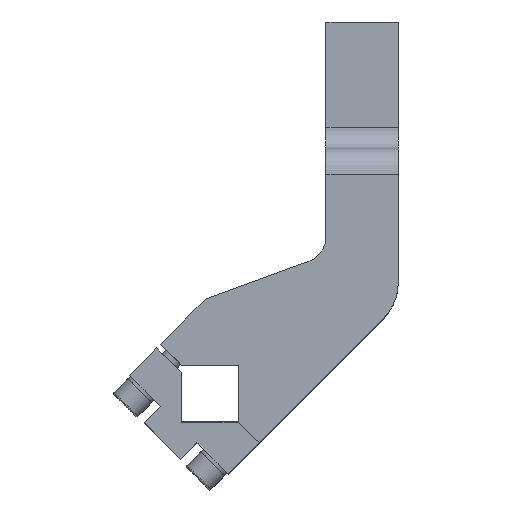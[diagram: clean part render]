
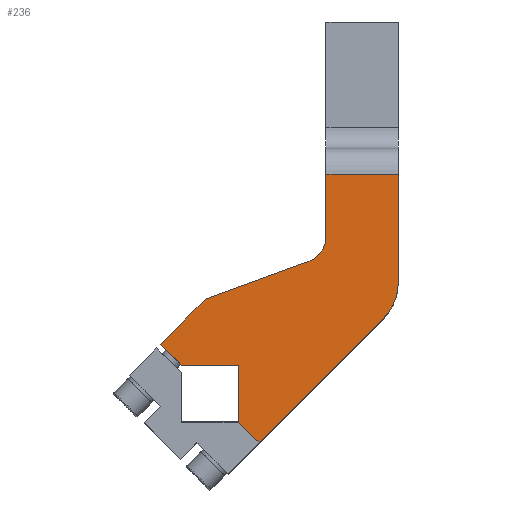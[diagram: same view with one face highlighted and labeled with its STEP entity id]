
A CAD part, top view. The second image highlights one B-rep face of the part: STEP entity #236.
In plain terms, the highlighted planar face has unit normal (0, 0, 1).
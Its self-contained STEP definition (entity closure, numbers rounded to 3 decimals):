
#70=CARTESIAN_POINT('Vertex',(67.142,28.958,39.)) ;
#73=CARTESIAN_POINT('Line Origine',(43.117,4.933,39.)) ;
#77=CARTESIAN_POINT('Vertex',(19.092,-19.092,39.)) ;
#97=CARTESIAN_POINT('Line Origine',(15.076,-15.076,39.)) ;
#101=CARTESIAN_POINT('Vertex',(11.06,-11.06,39.)) ;
#149=CARTESIAN_POINT('Axis2P3D Location',(0.,0.,39.)) ;
#154=CARTESIAN_POINT('Line Origine',(73.,64.05,39.)) ;
#158=CARTESIAN_POINT('Vertex',(73.,85.,39.)) ;
#160=CARTESIAN_POINT('Vertex',(73.,43.101,39.)) ;
#163=CARTESIAN_POINT('Line Origine',(59.,85.,39.)) ;
#167=CARTESIAN_POINT('Vertex',(45.,85.,39.)) ;
#170=CARTESIAN_POINT('Line Origine',(45.,72.824,39.)) ;
#174=CARTESIAN_POINT('Vertex',(45.,60.649,39.)) ;
#177=CARTESIAN_POINT('Axis2P3D Location',(35.,60.649,39.)) ;
#181=CARTESIAN_POINT('Vertex',(38.42,51.252,39.)) ;
#184=CARTESIAN_POINT('Line Origine',(18.49,43.998,39.)) ;
#188=CARTESIAN_POINT('Vertex',(-1.44,36.744,39.)) ;
#191=CARTESIAN_POINT('Line Origine',(-10.266,27.918,39.)) ;
#195=CARTESIAN_POINT('Vertex',(-19.092,19.092,39.)) ;
#198=CARTESIAN_POINT('Line Origine',(-15.076,15.076,39.)) ;
#202=CARTESIAN_POINT('Vertex',(-11.06,11.06,39.)) ;
#205=CARTESIAN_POINT('Line Origine',(0.,11.06,39.)) ;
#209=CARTESIAN_POINT('Vertex',(11.06,11.06,39.)) ;
#212=CARTESIAN_POINT('Line Origine',(11.06,0.,39.)) ;
#217=CARTESIAN_POINT('Axis2P3D Location',(53.,43.101,39.)) ;
#74=DIRECTION('Vector Direction',(-0.707,-0.707,0.)) ;
#98=DIRECTION('Vector Direction',(0.707,-0.707,0.)) ;
#150=DIRECTION('Axis2P3D Direction',(0.,0.,1.)) ;
#151=DIRECTION('Axis2P3D XDirection',(1.,0.,0.)) ;
#155=DIRECTION('Vector Direction',(0.,1.,0.)) ;
#164=DIRECTION('Vector Direction',(-1.,0.,0.)) ;
#171=DIRECTION('Vector Direction',(0.,1.,0.)) ;
#178=DIRECTION('Axis2P3D Direction',(0.,0.,1.)) ;
#185=DIRECTION('Vector Direction',(-0.94,-0.342,0.)) ;
#192=DIRECTION('Vector Direction',(-0.707,-0.707,0.)) ;
#199=DIRECTION('Vector Direction',(0.707,-0.707,0.)) ;
#206=DIRECTION('Vector Direction',(1.,0.,0.)) ;
#213=DIRECTION('Vector Direction',(0.,1.,0.)) ;
#218=DIRECTION('Axis2P3D Direction',(0.,0.,1.)) ;
#152=AXIS2_PLACEMENT_3D('Plane Axis2P3D',#149,#150,#151) ;
#179=AXIS2_PLACEMENT_3D('Circle Axis2P3D',#177,#178,$) ;
#219=AXIS2_PLACEMENT_3D('Circle Axis2P3D',#217,#218,$) ;
#223=ORIENTED_EDGE('',*,*,#162,.F.) ;
#224=ORIENTED_EDGE('',*,*,#169,.T.) ;
#225=ORIENTED_EDGE('',*,*,#176,.T.) ;
#226=ORIENTED_EDGE('',*,*,#183,.T.) ;
#227=ORIENTED_EDGE('',*,*,#190,.T.) ;
#228=ORIENTED_EDGE('',*,*,#197,.T.) ;
#229=ORIENTED_EDGE('',*,*,#204,.T.) ;
#230=ORIENTED_EDGE('',*,*,#211,.T.) ;
#231=ORIENTED_EDGE('',*,*,#216,.T.) ;
#232=ORIENTED_EDGE('',*,*,#103,.T.) ;
#233=ORIENTED_EDGE('',*,*,#79,.T.) ;
#234=ORIENTED_EDGE('',*,*,#221,.T.) ;
#75=VECTOR('Line Direction',#74,1.) ;
#99=VECTOR('Line Direction',#98,1.) ;
#156=VECTOR('Line Direction',#155,1.) ;
#165=VECTOR('Line Direction',#164,1.) ;
#172=VECTOR('Line Direction',#171,1.) ;
#186=VECTOR('Line Direction',#185,1.) ;
#193=VECTOR('Line Direction',#192,1.) ;
#200=VECTOR('Line Direction',#199,1.) ;
#207=VECTOR('Line Direction',#206,1.) ;
#214=VECTOR('Line Direction',#213,1.) ;
#236=ADVANCED_FACE('Brep With Voids',(#235),#153,.T.) ;
#180=CIRCLE('generated circle',#179,10.) ;
#220=CIRCLE('generated circle',#219,20.) ;
#79=EDGE_CURVE('',#78,#71,#76,.F.) ;
#103=EDGE_CURVE('',#102,#78,#100,.T.) ;
#162=EDGE_CURVE('',#159,#161,#157,.F.) ;
#169=EDGE_CURVE('',#159,#168,#166,.T.) ;
#176=EDGE_CURVE('',#168,#175,#173,.F.) ;
#183=EDGE_CURVE('',#175,#182,#180,.F.) ;
#190=EDGE_CURVE('',#182,#189,#187,.T.) ;
#197=EDGE_CURVE('',#189,#196,#194,.T.) ;
#204=EDGE_CURVE('',#196,#203,#201,.T.) ;
#211=EDGE_CURVE('',#203,#210,#208,.T.) ;
#216=EDGE_CURVE('',#210,#102,#215,.F.) ;
#221=EDGE_CURVE('',#71,#161,#220,.T.) ;
#222=EDGE_LOOP('',(#223,#224,#225,#226,#227,#228,#229,#230,#231,#232,#233,#234)) ;
#235=FACE_OUTER_BOUND('',#222,.T.) ;
#76=LINE('Line',#73,#75) ;
#100=LINE('Line',#97,#99) ;
#157=LINE('Line',#154,#156) ;
#166=LINE('Line',#163,#165) ;
#173=LINE('Line',#170,#172) ;
#187=LINE('Line',#184,#186) ;
#194=LINE('Line',#191,#193) ;
#201=LINE('Line',#198,#200) ;
#208=LINE('Line',#205,#207) ;
#215=LINE('Line',#212,#214) ;
#153=PLANE('Plane',#152) ;
#71=VERTEX_POINT('',#70) ;
#78=VERTEX_POINT('',#77) ;
#102=VERTEX_POINT('',#101) ;
#159=VERTEX_POINT('',#158) ;
#161=VERTEX_POINT('',#160) ;
#168=VERTEX_POINT('',#167) ;
#175=VERTEX_POINT('',#174) ;
#182=VERTEX_POINT('',#181) ;
#189=VERTEX_POINT('',#188) ;
#196=VERTEX_POINT('',#195) ;
#203=VERTEX_POINT('',#202) ;
#210=VERTEX_POINT('',#209) ;
